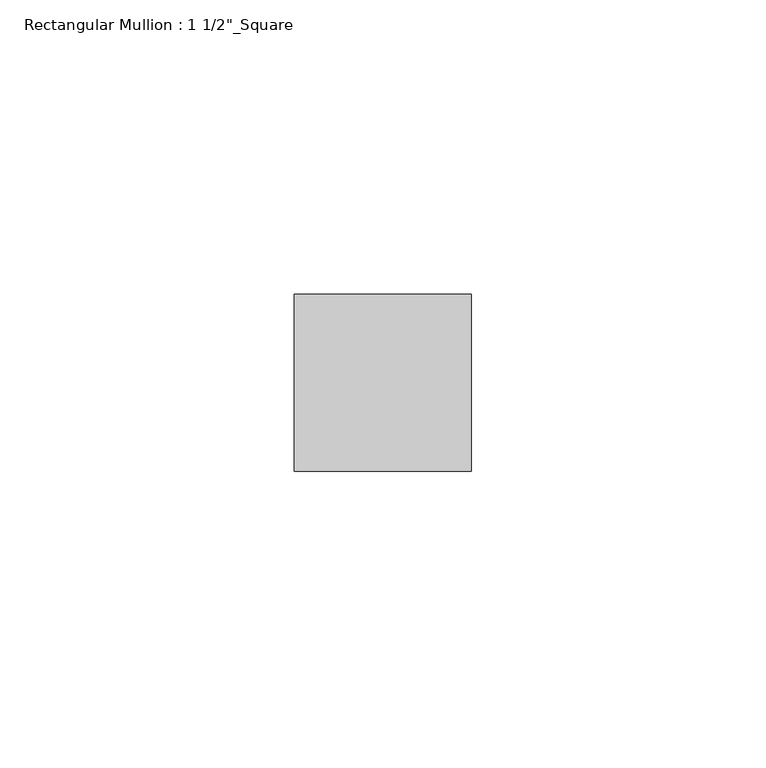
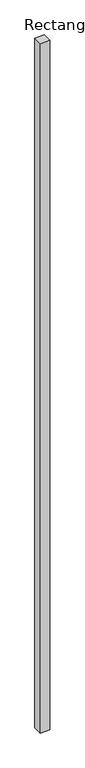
"""IFC4 building model written with IfcOpenShell, lengths in millimetres: member geometry."""

import ifcopenshell
import ifcopenshell.guid

model = None  # the IFC model being written
_history = None  # IfcOwnerHistory: only IFC2X3 demands one
_inside = {}  # id of a spatial element -> (the spatial element, [elements in it])
_under = {}  # id of a project, library or spatial element -> (it, [spatial elements below it])
_declared = {}  # id of a project -> (the project, [libraries it declares])
_typed = {}  # id of a type object -> (the type object, [elements of that type])
_made_of = {}  # id of a material, layer set ... -> (it, [elements and type objects made of it])


def new_model(schema):
    """Start an empty IFC model of exactly this schema.

    Asked for "IFC4X3", IfcOpenShell would pick the latest addendum, in which some entities
    have other attributes; the version numbers below select the first issue.
    IFC2X3 requires an IfcOwnerHistory on every rooted entity: one is made here for all.
    """
    global model, _history
    if schema == "IFC4X3":
        model = ifcopenshell.file(schema_version=(4, 3, 0, 0))
    else:
        model = ifcopenshell.file(schema=schema)
    _inside.clear()
    _under.clear()
    _declared.clear()
    _typed.clear()
    _made_of.clear()
    _history = None
    if model.schema == "IFC2X3":
        org = make("IfcOrganization", Name="unknown")
        user = make(
            "IfcPersonAndOrganization",
            ThePerson=make("IfcPerson", FamilyName="unknown"),
            TheOrganization=org,
        )
        app = make(
            "IfcApplication",
            ApplicationDeveloper=org,
            Version="unknown",
            ApplicationFullName="unknown",
            ApplicationIdentifier="unknown",
        )
        _history = make(
            "IfcOwnerHistory",
            OwningUser=user,
            OwningApplication=app,
            ChangeAction="ADDED",
            CreationDate=0,
        )
    return model


def make(cls, **values):
    """One entity of the class cls with the attributes given. An attribute that is None is left unset."""
    return model.create_entity(
        cls, **{name: value for name, value in values.items() if value is not None}
    )


def rooted(cls, **values):
    """An entity with a GlobalId (a new one), such as an element, a storey or a relation."""
    return make(cls, GlobalId=ifcopenshell.guid.new(), OwnerHistory=_history, **values)


def si_unit(unit_type, name, prefix=None):
    """IfcSIUnit, for example si_unit("LENGTHUNIT", "METRE", prefix="MILLI")."""
    return make("IfcSIUnit", UnitType=unit_type, Prefix=prefix, Name=name)


def assignment(units):
    """IfcUnitAssignment: the units of a project."""
    return None if units is None else make("IfcUnitAssignment", Units=units)


def point(xyz):
    """IfcCartesianPoint."""
    return None if xyz is None else make("IfcCartesianPoint", Coordinates=xyz)


def direction(xyz):
    """IfcDirection."""
    return None if xyz is None else make("IfcDirection", DirectionRatios=xyz)


def frame(location, z_axis=None, x_axis=None):
    """IfcAxis2Placement3D, a coordinate frame: its origin and axes. An axis left out is left unset."""
    return make(
        "IfcAxis2Placement3D",
        Location=point(location),
        Axis=direction(z_axis),
        RefDirection=direction(x_axis),
    )


def origin():
    """The frame at (0, 0, 0) with its axes left unset."""
    return frame((0.0, 0.0, 0.0))


def place(relative_to, where):
    """IfcLocalPlacement: puts the frame where relative to a parent placement (None: the world)."""
    return make(
        "IfcLocalPlacement", PlacementRelTo=relative_to, RelativePlacement=where
    )


def context(
    kind, dimensions, precision=None, world=None, true_north=None, identifier=None
):
    """IfcGeometricRepresentationContext, for example the 3D "Model" context."""
    return make(
        "IfcGeometricRepresentationContext",
        ContextIdentifier=identifier,
        ContextType=kind,
        CoordinateSpaceDimension=dimensions,
        Precision=precision,
        WorldCoordinateSystem=world,
        TrueNorth=true_north,
    )


def project(units=None, contexts=None):
    """IfcProject with its units and contexts."""
    return rooted(
        "IfcProject",
        Name="project",
        RepresentationContexts=contexts,
        UnitsInContext=assignment(units),
    )


def spatial(cls, under=None, at=None, **own):
    """A site, building, storey or space (cls), placed at a placement, below another one or the project."""
    s = rooted(cls, ObjectPlacement=at, **own)
    if under is not None:
        _under.setdefault(under.id(), (under, []))[1].append(s)
    return s


def polyline(points):
    """IfcPolyline through the points."""
    return make("IfcPolyline", Points=[point(p) for p in points])


def outline(outer, holes=None, kind="AREA"):
    """IfcArbitraryClosedProfileDef: a profile drawn as a closed curve; with holes, ...WithVoids."""
    if holes is None:
        return make("IfcArbitraryClosedProfileDef", ProfileType=kind, OuterCurve=outer)
    return make(
        "IfcArbitraryProfileDefWithVoids",
        ProfileType=kind,
        OuterCurve=outer,
        InnerCurves=holes,
    )


def extrude(swept, where, along, depth):
    """IfcExtrudedAreaSolid: the profile swept, set in the frame where, extruded along a direction by depth."""
    return make(
        "IfcExtrudedAreaSolid",
        SweptArea=swept,
        Position=where,
        ExtrudedDirection=direction(along),
        Depth=depth,
    )


def shape(context_of_items, identifier, shape_type, items):
    """IfcShapeRepresentation: the items that make up one representation, for example the "Body"."""
    return make(
        "IfcShapeRepresentation",
        ContextOfItems=context_of_items,
        RepresentationIdentifier=identifier,
        RepresentationType=shape_type,
        Items=items,
    )


def source(mapping_origin, context_of_items, identifier, shape_type, items):
    """IfcRepresentationMap: a shape defined once, which mapped items show again and again."""
    return make(
        "IfcRepresentationMap",
        MappingOrigin=mapping_origin,
        MappedRepresentation=shape(context_of_items, identifier, shape_type, items),
    )


def transform(
    local_origin,
    x_axis=None,
    y_axis=None,
    z_axis=None,
    scale=None,
    scale2=None,
    scale3=None,
    uniform=True,
):
    """IfcCartesianTransformationOperator3D, or its non-uniform kind. x_axis, y_axis, z_axis: its Axis1, 2, 3."""
    if uniform:
        return make(
            "IfcCartesianTransformationOperator3D",
            Axis1=direction(x_axis),
            Axis2=direction(y_axis),
            LocalOrigin=point(local_origin),
            Scale=scale,
            Axis3=direction(z_axis),
        )
    return make(
        "IfcCartesianTransformationOperator3DnonUniform",
        Axis1=direction(x_axis),
        Axis2=direction(y_axis),
        LocalOrigin=point(local_origin),
        Scale=scale,
        Axis3=direction(z_axis),
        Scale2=scale2,
        Scale3=scale3,
    )


def mapped(mapping_source, mapping_target):
    """IfcMappedItem: shows the shape of a source again, moved by a transform."""
    return make(
        "IfcMappedItem", MappingSource=mapping_source, MappingTarget=mapping_target
    )


def made_of(thing, what):
    """Note that an element or type object is made of a material, layer set ...; save() writes the relation."""
    if what is not None:
        _made_of.setdefault(what.id(), (what, []))[1].append(thing)
    return thing


def element(
    cls,
    number,
    at=None,
    inside=None,
    cuts=None,
    type_object=None,
    material=None,
    context=None,
    identifier="Body",
    shape_type=None,
    held_by="IfcProductDefinitionShape",
    body=None,
    shapes=None,
    **own,
):
    """One element of the class cls, such as IfcWall. Its Tag is "e" and its number.

    at: its placement. inside: the storey or other place that contains it. cuts: it is an
    opening in that element (IfcRelVoidsElement). A single representation is given by context,
    identifier, shape_type and body (its items); several are given by shapes. held_by: the class
    of the entity that holds the representations. save() writes the other relations.
    """
    e = rooted(cls, Tag="e%d" % number, ObjectPlacement=at, **own)
    if body is not None:
        shapes = [shape(context, identifier, shape_type, body)]
    if shapes is not None:
        e.Representation = make(held_by, Representations=shapes)
    if inside is not None:
        _inside.setdefault(inside.id(), (inside, []))[1].append(e)
    if cuts is not None:
        rooted(
            "IfcRelVoidsElement", RelatingBuildingElement=cuts, RelatedOpeningElement=e
        )
    if type_object is not None:
        _typed.setdefault(type_object.id(), (type_object, []))[1].append(e)
    return made_of(e, material)


def aggregate(whole, parts):
    """IfcRelAggregates: a whole, such as a stair, and the parts it consists of."""
    return rooted("IfcRelAggregates", RelatingObject=whole, RelatedObjects=parts)


def save(model, path):
    """Write the relations noted so far, then the file.

    IfcRelAggregates (storeys below a building ...), IfcRelContainedInSpatialStructure (elements
    in a storey), IfcRelDefinesByType, IfcRelAssociatesMaterial and IfcRelDeclares: one each for
    every whole, place, type object, material and project.
    """
    for whole, parts in _under.values():
        aggregate(whole, parts)
    for where, things in _inside.values():
        rooted(
            "IfcRelContainedInSpatialStructure",
            RelatedElements=things,
            RelatingStructure=where,
        )
    for kind, things in _typed.values():
        rooted("IfcRelDefinesByType", RelatedObjects=things, RelatingType=kind)
    for what, things in _made_of.values():
        rooted("IfcRelAssociatesMaterial", RelatedObjects=things, RelatingMaterial=what)
    for by, libraries in _declared.values():
        rooted("IfcRelDeclares", RelatingContext=by, RelatedDefinitions=libraries)
    model.write(path)


def member_f44e7a35(model_context):
    return source(origin(), model_context, "Body", "SweptSolid", [
        extrude(outline(polyline([(15.0, 27.5), (15.0, -2.5), (-15.0, -2.5), (-15.0, 27.5), (15.0, 27.5)])), frame((0.0, 0.0, -2300.0), z_axis=(0.0, 0.0, 1.0), x_axis=(1.0, 0.0, 0.0)), (0.0, 0.0, 1.0), 2300.0),
    ])


if __name__ == "__main__":
    model = new_model("IFC4")
    model_context = context("Model", 3, world=origin())
    ifc_project = project(units=[si_unit("LENGTHUNIT", "METRE", prefix="MILLI")], contexts=[model_context])
    site = spatial("IfcSite", under=ifc_project)
    building = spatial("IfcBuilding", under=site)
    placement = place(None, origin())
    member_shape = member_f44e7a35(model_context)
    element("IfcMember", 1, ObjectType="Rectangular Mullion : 1 1/2\"_Square", at=placement, inside=building, context=model_context, shape_type="MappedRepresentation", body=[
        mapped(member_shape, transform((0.0, 0.0, 0.0), x_axis=(1.0, 0.0, 0.0), y_axis=(0.0, 1.0, 0.0), z_axis=(0.0, 0.0, 1.0))),
    ])
    save(model, "model.ifc")
